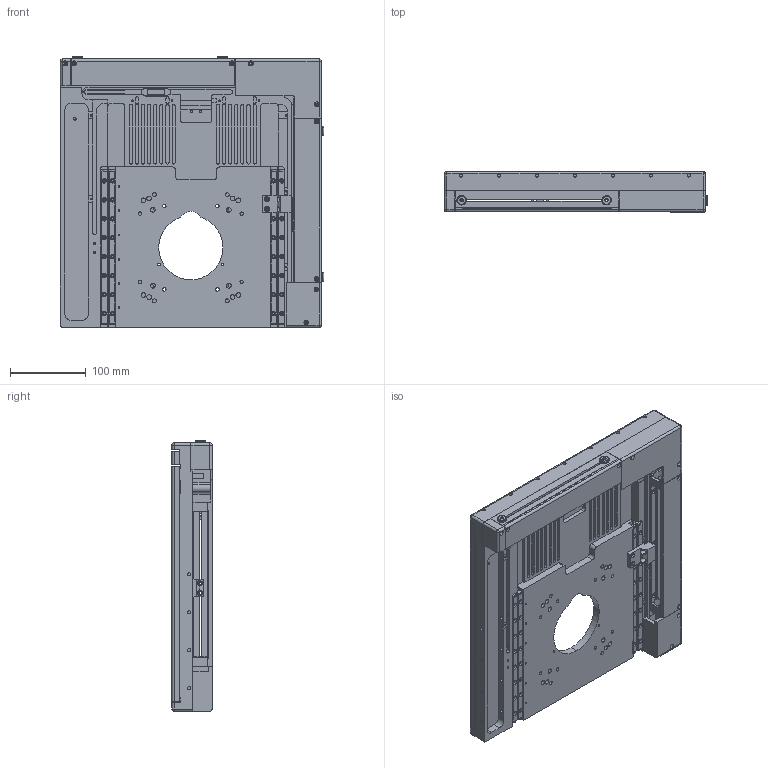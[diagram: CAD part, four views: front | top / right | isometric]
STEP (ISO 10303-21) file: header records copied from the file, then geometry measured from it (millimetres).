
FILE_DESCRIPTION (( 'STEP AP203' ), '1' );
FILE_NAME ('H105F - 26.02.2024.STEP', '2024-02-26T10:52:50', ( '' ), ( '' ), 'SwSTEP 2.0', 'SolidWorks 2022', '' );
FILE_SCHEMA (( 'CONFIG_CONTROL_DESIGN' ));
Length unit declared in the file: millimetre
Products named in the file (15): H4577_Motor Cover H105F; H6392_Bottom Plate H105F; H105F - 26.02.2024; H4582_Microswitch Clamp Plate H105F; H6386_Drive Dog Mount; H4576_DRIVE_BOX_TOP_COVER_H105F; H6391_Middle Plate H105F; H4579_Termination Cover H105F; W4382_CAGE___ROLLER_ASSEMBLY_(CRW3-200); H4566_X-Axis Drive Dog Mount H105F; W4747_M6 Metric Hole Plug, Dyed Black; H6390_Top Plate H105F; H4578_End Cover X-Axis H105F; H4572 X-AXIS GUIDE RAIL H105F; H4565 Y-AXIS DRIVE BOX H105F
Assembly tree (23 placements, depth 2):
  H105F - 26.02.2024
    H4565 Y-AXIS DRIVE BOX H105F  x2
    H4566_X-Axis Drive Dog Mount H105F
    H4572 X-AXIS GUIDE RAIL H105F
    H4576_DRIVE_BOX_TOP_COVER_H105F  x2
    H4577_Motor Cover H105F
    H4578_End Cover X-Axis H105F
    H4579_Termination Cover H105F
    H4582_Microswitch Clamp Plate H105F  x4
    H6386_Drive Dog Mount
    H6390_Top Plate H105F
    H6391_Middle Plate H105F
    H6392_Bottom Plate H105F
    W4382_CAGE___ROLLER_ASSEMBLY_(CRW3-200)  x4
    W4747_M6 Metric Hole Plug, Dyed Black  x2
Bounding box: 347 x 53 x 357 mm (x, y, z)
Volume: 2333232.7 mm3; surface area: 783734.9 mm2
Topology: 23 solids, 23 shells, 2124 faces, 5878 edges, 3752 vertices
Faces by surface type: cylinder 971, plane 914, cone 216, torus 12, sphere 7, bspline 4
Entity records: 58960 total; most frequent: CARTESIAN_POINT 12108, DIRECTION 9631, ORIENTED_EDGE 9280, EDGE_CURVE 4640, AXIS2_PLACEMENT_3D 3382, VERTEX_POINT 3023, VECTOR 2867, LINE 2867
